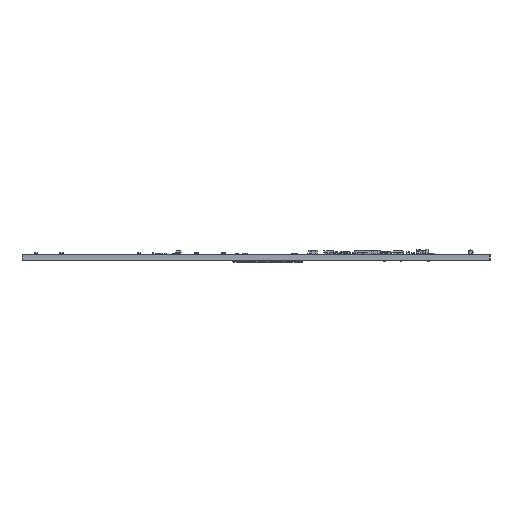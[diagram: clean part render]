
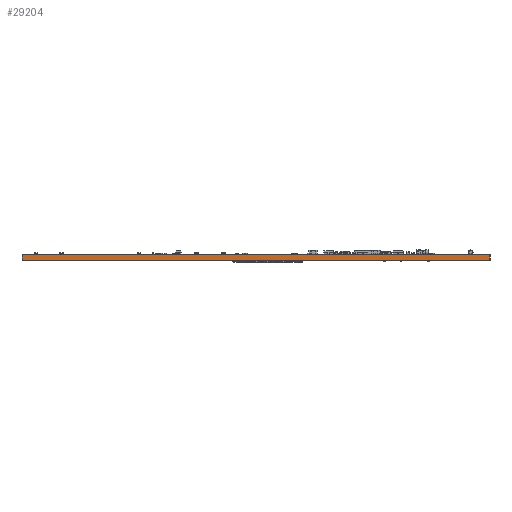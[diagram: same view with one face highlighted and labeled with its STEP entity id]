
A CAD part, left-side view. The second image highlights one B-rep face of the part: STEP entity #29204.
In plain terms, the highlighted planar face has unit normal (-1, 0, 0).
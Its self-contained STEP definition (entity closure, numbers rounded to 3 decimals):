
#29023 = PLANE('',#29024);
#29024 = AXIS2_PLACEMENT_3D('',#29025,#29026,#29027);
#29025 = CARTESIAN_POINT('',(153.,-7.,0.));
#29026 = DIRECTION('',(0.,-1.,0.));
#29027 = DIRECTION('',(-1.,0.,0.));
#29048 = VERTEX_POINT('',#29049);
#29049 = CARTESIAN_POINT('',(-7.,-7.,1.6));
#29063 = PLANE('',#29064);
#29064 = AXIS2_PLACEMENT_3D('',#29065,#29066,#29067);
#29065 = CARTESIAN_POINT('',(73.,63.,1.6));
#29066 = DIRECTION('',(-0.,-0.,-1.));
#29067 = DIRECTION('',(-1.,0.,0.));
#29075 = EDGE_CURVE('',#29076,#29048,#29078,.T.);
#29076 = VERTEX_POINT('',#29077);
#29077 = CARTESIAN_POINT('',(-7.,-7.,0.));
#29078 = SURFACE_CURVE('',#29079,(#29083,#29090),.PCURVE_S1.);
#29079 = LINE('',#29080,#29081);
#29080 = CARTESIAN_POINT('',(-7.,-7.,0.));
#29081 = VECTOR('',#29082,1.);
#29082 = DIRECTION('',(0.,0.,1.));
#29083 = PCURVE('',#29023,#29084);
#29084 = DEFINITIONAL_REPRESENTATION('',(#29085),#29089);
#29085 = LINE('',#29086,#29087);
#29086 = CARTESIAN_POINT('',(160.,0.));
#29087 = VECTOR('',#29088,1.);
#29088 = DIRECTION('',(0.,-1.));
#29089 = ( GEOMETRIC_REPRESENTATION_CONTEXT(2) 
PARAMETRIC_REPRESENTATION_CONTEXT() REPRESENTATION_CONTEXT('2D SPACE',''
  ) );
#29090 = PCURVE('',#29091,#29096);
#29091 = PLANE('',#29092);
#29092 = AXIS2_PLACEMENT_3D('',#29093,#29094,#29095);
#29093 = CARTESIAN_POINT('',(-7.,-7.,0.));
#29094 = DIRECTION('',(-1.,0.,0.));
#29095 = DIRECTION('',(0.,1.,0.));
#29096 = DEFINITIONAL_REPRESENTATION('',(#29097),#29101);
#29097 = LINE('',#29098,#29099);
#29098 = CARTESIAN_POINT('',(0.,0.));
#29099 = VECTOR('',#29100,1.);
#29100 = DIRECTION('',(0.,-1.));
#29101 = ( GEOMETRIC_REPRESENTATION_CONTEXT(2) 
PARAMETRIC_REPRESENTATION_CONTEXT() REPRESENTATION_CONTEXT('2D SPACE',''
  ) );
#29117 = PLANE('',#29118);
#29118 = AXIS2_PLACEMENT_3D('',#29119,#29120,#29121);
#29119 = CARTESIAN_POINT('',(73.,63.,0.));
#29120 = DIRECTION('',(-0.,-0.,-1.));
#29121 = DIRECTION('',(-1.,0.,0.));
#29150 = PLANE('',#29151);
#29151 = AXIS2_PLACEMENT_3D('',#29152,#29153,#29154);
#29152 = CARTESIAN_POINT('',(-7.,133.,0.));
#29153 = DIRECTION('',(0.,1.,0.));
#29154 = DIRECTION('',(1.,0.,0.));
#29204 = ADVANCED_FACE('',(#29205),#29091,.T.);
#29205 = FACE_BOUND('',#29206,.T.);
#29206 = EDGE_LOOP('',(#29207,#29208,#29231,#29254));
#29207 = ORIENTED_EDGE('',*,*,#29075,.T.);
#29208 = ORIENTED_EDGE('',*,*,#29209,.T.);
#29209 = EDGE_CURVE('',#29048,#29210,#29212,.T.);
#29210 = VERTEX_POINT('',#29211);
#29211 = CARTESIAN_POINT('',(-7.,133.,1.6));
#29212 = SURFACE_CURVE('',#29213,(#29217,#29224),.PCURVE_S1.);
#29213 = LINE('',#29214,#29215);
#29214 = CARTESIAN_POINT('',(-7.,-7.,1.6));
#29215 = VECTOR('',#29216,1.);
#29216 = DIRECTION('',(0.,1.,0.));
#29217 = PCURVE('',#29091,#29218);
#29218 = DEFINITIONAL_REPRESENTATION('',(#29219),#29223);
#29219 = LINE('',#29220,#29221);
#29220 = CARTESIAN_POINT('',(0.,-1.6));
#29221 = VECTOR('',#29222,1.);
#29222 = DIRECTION('',(1.,0.));
#29223 = ( GEOMETRIC_REPRESENTATION_CONTEXT(2) 
PARAMETRIC_REPRESENTATION_CONTEXT() REPRESENTATION_CONTEXT('2D SPACE',''
  ) );
#29224 = PCURVE('',#29063,#29225);
#29225 = DEFINITIONAL_REPRESENTATION('',(#29226),#29230);
#29226 = LINE('',#29227,#29228);
#29227 = CARTESIAN_POINT('',(80.,-70.));
#29228 = VECTOR('',#29229,1.);
#29229 = DIRECTION('',(0.,1.));
#29230 = ( GEOMETRIC_REPRESENTATION_CONTEXT(2) 
PARAMETRIC_REPRESENTATION_CONTEXT() REPRESENTATION_CONTEXT('2D SPACE',''
  ) );
#29231 = ORIENTED_EDGE('',*,*,#29232,.F.);
#29232 = EDGE_CURVE('',#29233,#29210,#29235,.T.);
#29233 = VERTEX_POINT('',#29234);
#29234 = CARTESIAN_POINT('',(-7.,133.,0.));
#29235 = SURFACE_CURVE('',#29236,(#29240,#29247),.PCURVE_S1.);
#29236 = LINE('',#29237,#29238);
#29237 = CARTESIAN_POINT('',(-7.,133.,0.));
#29238 = VECTOR('',#29239,1.);
#29239 = DIRECTION('',(0.,0.,1.));
#29240 = PCURVE('',#29091,#29241);
#29241 = DEFINITIONAL_REPRESENTATION('',(#29242),#29246);
#29242 = LINE('',#29243,#29244);
#29243 = CARTESIAN_POINT('',(140.,0.));
#29244 = VECTOR('',#29245,1.);
#29245 = DIRECTION('',(0.,-1.));
#29246 = ( GEOMETRIC_REPRESENTATION_CONTEXT(2) 
PARAMETRIC_REPRESENTATION_CONTEXT() REPRESENTATION_CONTEXT('2D SPACE',''
  ) );
#29247 = PCURVE('',#29150,#29248);
#29248 = DEFINITIONAL_REPRESENTATION('',(#29249),#29253);
#29249 = LINE('',#29250,#29251);
#29250 = CARTESIAN_POINT('',(0.,0.));
#29251 = VECTOR('',#29252,1.);
#29252 = DIRECTION('',(0.,-1.));
#29253 = ( GEOMETRIC_REPRESENTATION_CONTEXT(2) 
PARAMETRIC_REPRESENTATION_CONTEXT() REPRESENTATION_CONTEXT('2D SPACE',''
  ) );
#29254 = ORIENTED_EDGE('',*,*,#29255,.F.);
#29255 = EDGE_CURVE('',#29076,#29233,#29256,.T.);
#29256 = SURFACE_CURVE('',#29257,(#29261,#29268),.PCURVE_S1.);
#29257 = LINE('',#29258,#29259);
#29258 = CARTESIAN_POINT('',(-7.,-7.,0.));
#29259 = VECTOR('',#29260,1.);
#29260 = DIRECTION('',(0.,1.,0.));
#29261 = PCURVE('',#29091,#29262);
#29262 = DEFINITIONAL_REPRESENTATION('',(#29263),#29267);
#29263 = LINE('',#29264,#29265);
#29264 = CARTESIAN_POINT('',(0.,0.));
#29265 = VECTOR('',#29266,1.);
#29266 = DIRECTION('',(1.,0.));
#29267 = ( GEOMETRIC_REPRESENTATION_CONTEXT(2) 
PARAMETRIC_REPRESENTATION_CONTEXT() REPRESENTATION_CONTEXT('2D SPACE',''
  ) );
#29268 = PCURVE('',#29117,#29269);
#29269 = DEFINITIONAL_REPRESENTATION('',(#29270),#29274);
#29270 = LINE('',#29271,#29272);
#29271 = CARTESIAN_POINT('',(80.,-70.));
#29272 = VECTOR('',#29273,1.);
#29273 = DIRECTION('',(0.,1.));
#29274 = ( GEOMETRIC_REPRESENTATION_CONTEXT(2) 
PARAMETRIC_REPRESENTATION_CONTEXT() REPRESENTATION_CONTEXT('2D SPACE',''
  ) );
